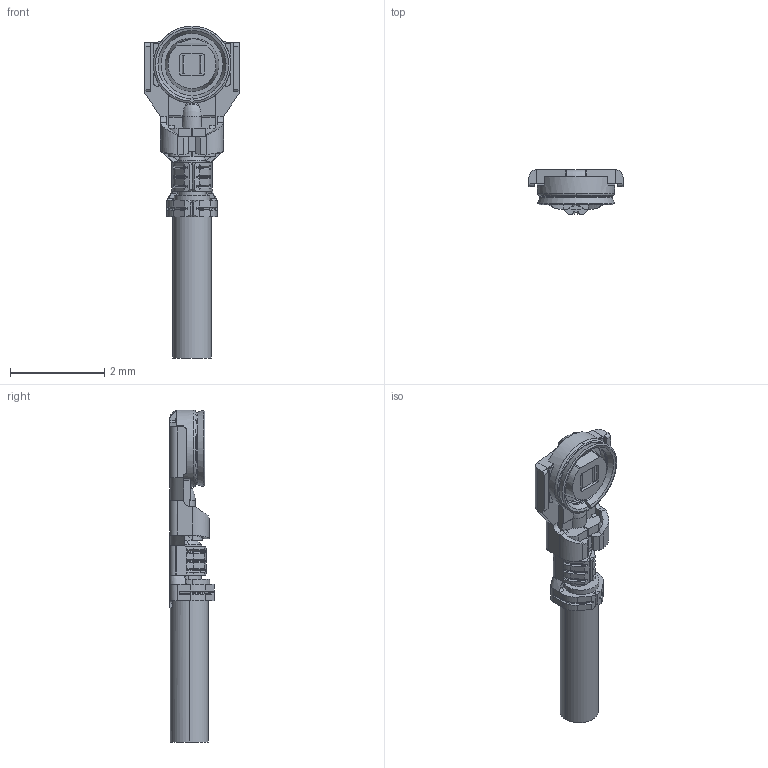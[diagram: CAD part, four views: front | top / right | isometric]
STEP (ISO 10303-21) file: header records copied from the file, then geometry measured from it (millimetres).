
FILE_DESCRIPTION (( 'STEP AP203' ), '1' );
FILE_NAME ('20711C PLUG(OD 0.81) R2 STEP ALL.STEP', '2018-06-11T05:15:44', ( '' ), ( '' ), 'SwSTEP 2.0', 'SolidWorks 2017', '' );
FILE_SCHEMA (( 'CONFIG_CONTROL_DESIGN' ));
Length unit declared in the file: millimetre
Products named in the file (1): 20711C PLUG(OD 0.81) R2 STEP ALL
Bounding box: 2 x 0.94 x 7.06 mm (x, y, z)
Volume: 4.7 mm3; surface area: 31.8 mm2
Topology: 1 solids, 1 shells, 402 faces, 1101 edges, 707 vertices
Faces by surface type: plane 216, cylinder 105, torus 29, bspline 27, cone 25
Entity records: 13523 total; most frequent: CARTESIAN_POINT 3475, ORIENTED_EDGE 2202, DIRECTION 1960, EDGE_CURVE 1101, VERTEX_POINT 707, VECTOR 672, LINE 672, AXIS2_PLACEMENT_3D 644
